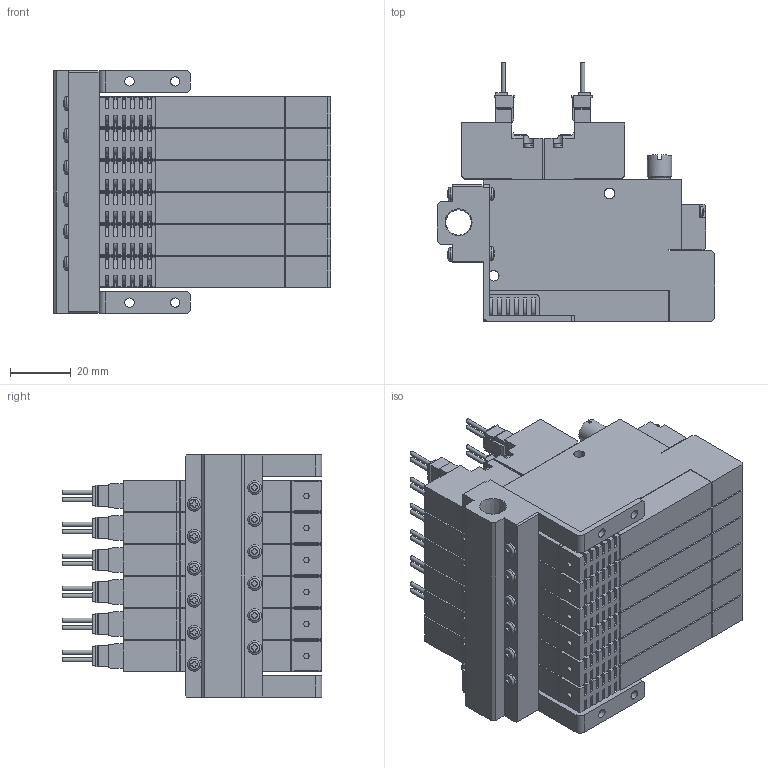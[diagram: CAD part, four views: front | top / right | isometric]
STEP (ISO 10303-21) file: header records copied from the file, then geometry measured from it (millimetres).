
FILE_DESCRIPTION(('STEP AP203'),'1');
FILE_NAME('5SS606.stp','2024-09-04T23:09:04',(' '),(' '),'Spatial InterOp 3D',' ',' ');
FILE_SCHEMA(('CONFIG_CONTROL_DESIGN'));
Length unit declared in the file: millimetre
Products named in the file (5): BSC1M※※ZZ※5SS606; Solenoid valve S; Pressure Sensor ZZ; Unit-S; BaseMS60R
Assembly tree (19 placements, depth 2):
  BSC1M※※ZZ※5SS606
    Solenoid valve S  x6
    Pressure Sensor ZZ  x6
    Unit-S  x6
    BaseMS60R
Bounding box: 91 x 85.05 x 79.5 mm (x, y, z)
Volume: 266695.7 mm3; surface area: 110723.5 mm2
Topology: 19 solids, 19 shells, 2705 faces, 7413 edges, 4918 vertices
Faces by surface type: plane 1990, cylinder 627, cone 32, sphere 28, torus 28
Full cylindrical faces by diameter (mm): 1.4 x24, 1.8 x6, 2.5 x12, 3 x28, 3.5 x36, 4 x6, 4.134 x12, 4.5 x16, 5.5 x6, 7 x6, 7.7 x6, 8 x6, 8.422 x1
Entity records: 21896 total; most frequent: CARTESIAN_POINT 4877, DIRECTION 3410, ORIENTED_EDGE 3362, EDGE_CURVE 1681, VERTEX_POINT 1169, LINE 1158, VECTOR 1158, AXIS2_PLACEMENT_3D 1126
